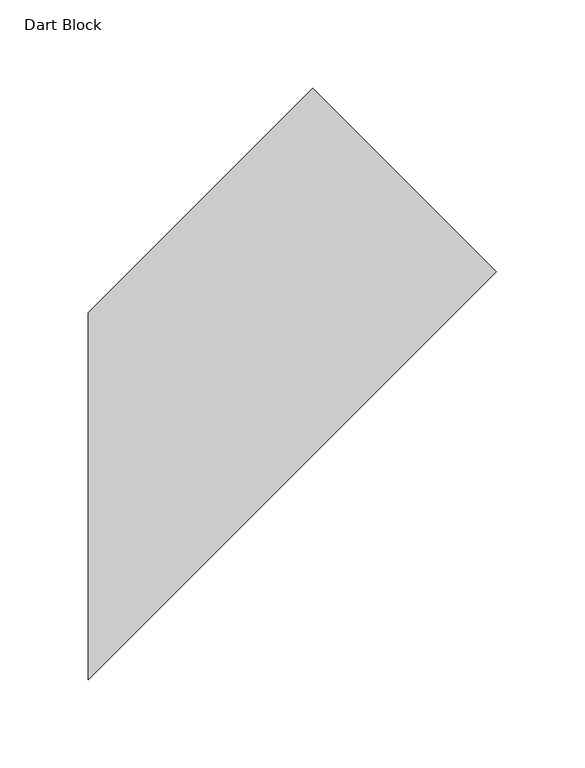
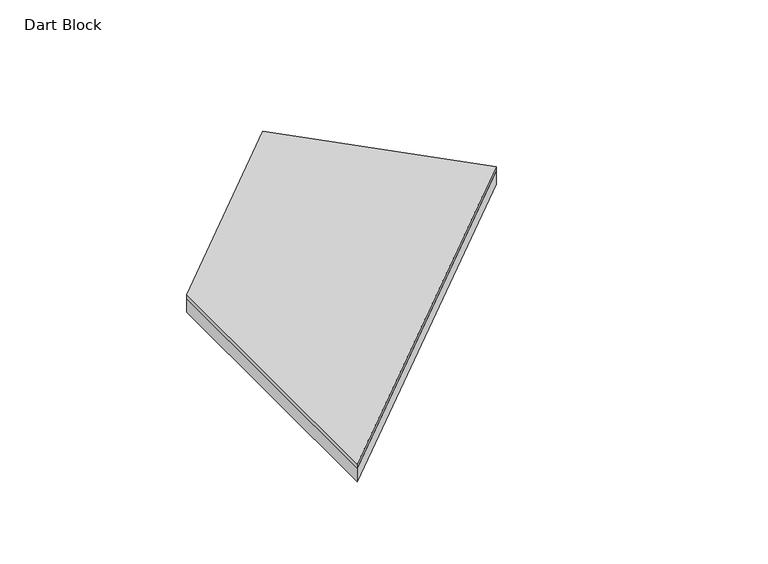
"""IFC4 building model written with IfcOpenShell, lengths in millimetres: proxy geometry, FilzFelt_Dart_Block : Dart Block."""

from ifc_helpers import new_model, si_unit, frame, origin, origin_with_axes, place, context, project, spatial, polyline, outline, extrude, source, transform, mapped, element, save


def dart_block_11f7d1ca(model_context):
    return source(origin(), model_context, "Body", "SweptSolid", [
        extrude(outline(polyline([(-127.0, 63.5), (0.0, 190.5), (103.8159567, 86.6840433), (-127.0, -144.1319134), (-127.0, 63.5)])), frame((0.0, 0.0, 10.0210937), z_axis=(0.0, 0.0, 1.0), x_axis=(1.0, 0.0, 0.0)), (0.0, 0.0, 1.0), 2.9765625),
        extrude(outline(polyline([(-127.0, 63.5), (0.0, 190.5), (103.8159567, 86.6840433), (-127.0, -144.1319134), (-127.0, 63.5)])), origin_with_axes(), (0.0, 0.0, 1.0), 10.0210938),
    ])


if __name__ == "__main__":
    model = new_model("IFC4")
    model_context = context("Model", 3, world=origin())
    ifc_project = project(units=[si_unit("LENGTHUNIT", "METRE", prefix="MILLI")], contexts=[model_context])
    site = spatial("IfcSite", under=ifc_project)
    building = spatial("IfcBuilding", under=site)
    placement = place(None, origin())
    dart_block_shape = dart_block_11f7d1ca(model_context)
    element("IfcBuildingElementProxy", 1, Name="FilzFelt_Dart_Block : Dart Block", ObjectType="FilzFelt_Dart_Block : Dart Block", at=placement, inside=building, context=model_context, shape_type="MappedRepresentation", body=[
        mapped(dart_block_shape, transform((0.0, 0.0, 0.0), x_axis=(1.0, 0.0, 0.0), y_axis=(0.0, 1.0, 0.0), z_axis=(0.0, 0.0, 1.0))),
    ])
    save(model, "model.ifc")
